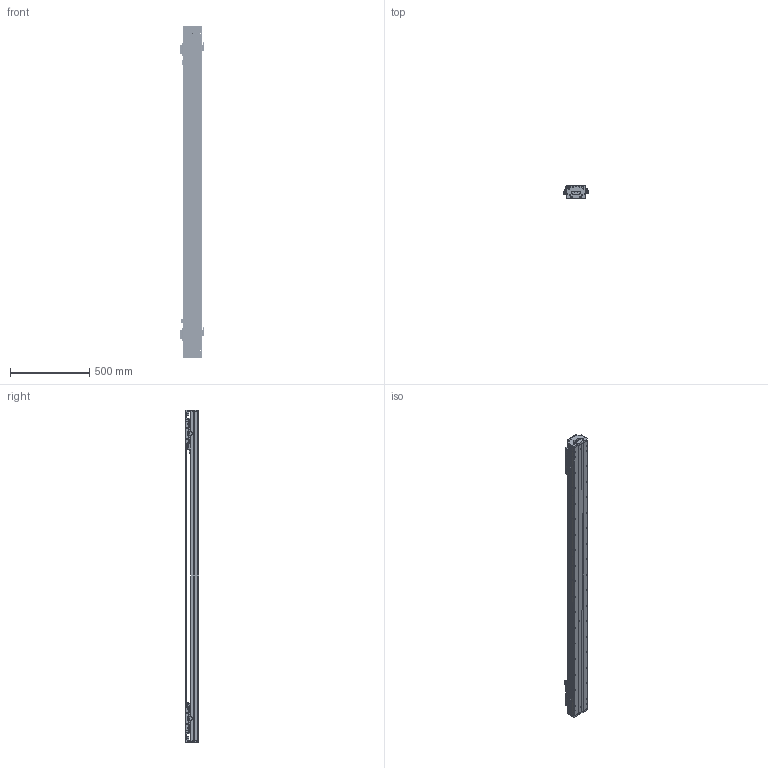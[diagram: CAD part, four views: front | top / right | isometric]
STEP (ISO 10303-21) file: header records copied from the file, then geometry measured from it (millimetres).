
FILE_DESCRIPTION (( 'STEP AP203' ), '1' );
FILE_NAME ('DKW120-2×B2-W060（T1580-L005-0.2）.STEP', '2021-09-24T02:32:12', ( '微软用户' ), ( '微软中国' ), 'SwSTEP 2.0', 'SolidWorks 2018', '' );
FILE_SCHEMA (( 'CONFIG_CONTROL_DESIGN' ));
Length unit declared in the file: millimetre
Products named in the file (24): 06652-0001-004-00 DKW120嶺輸菜輸; DKW-DG-XJ-Z-00 笢潔滅袉砎蝶; DKW120-B15-T300-DZ-00 菁釱; Ru2; DKW-HXJ-JY-00 遣喳砎蝶; DKW-GYP-ZJ-00 笢潔嫖萇覜茼え; MSB15-DG-U; RUS嫖掑郪璃; 10940-0001-004-00 120詩湍裔啣; DKW-KGZ-ZJ-00 中间光电开关支架; 06652-0001-001-00 DKW120傷啣; 10980-0001-003-00 嫖萇羲壽嘐隅釱; 砎蝶猾沭; DKW120-2×B2-W060（T1580-L005-0.2）; DKW-SG-GYP-H-00 嫖萇覜茼え; 12160-0000-003-00 DKW120詩湍嶺輸; B2-W060_00; 12160-0000-004-00  DKW120詩湍揤輸; DKW119-RU-DTJ-00 RU2黍杅芛盓殤; DKW120 单轴模组-拉钢带组件; B2-W060; BKMA01-W060-TRL280; EE_SX674A; RUS嫖掑喜
Assembly tree (41 placements, depth 3):
  DKW120-2×B2-W060（T1580-L005-0.2）
    DKW120-B15-T300-DZ-00 菁釱
    MSB15-DG-U  x2
    DKW120 单轴模组-拉钢带组件
      06652-0001-001-00 DKW120傷啣  x2
      06652-0001-004-00 DKW120嶺輸菜輸  x4
      DKW-HXJ-JY-00 遣喳砎蝶  x4
      10940-0001-004-00 120詩湍裔啣
      砎蝶猾沭  x2
      12160-0000-003-00 DKW120詩湍嶺輸  x2
      12160-0000-004-00  DKW120詩湍揤輸  x2
    BKMA01-W060-TRL280
    RUS嫖掑郪璃
      RUS嫖掑喜
      Ru2
    10980-0001-003-00 嫖萇羲壽嘐隅釱  x2
    B2-W060  x2
      DKW-SG-GYP-H-00 嫖萇覜茼え
      B2-W060_00
      DKW119-RU-DTJ-00 RU2黍杅芛盓殤
    EE_SX674A  x5
    Ru2
    DKW-DG-XJ-Z-00 笢潔滅袉砎蝶
    DKW-GYP-ZJ-00 笢潔嫖萇覜茼え
    DKW-KGZ-ZJ-00 中间光电开关支架
Bounding box: 154.1 x 84 x 2096 mm (x, y, z)
Volume: 7853559.3 mm3; surface area: 3037846.9 mm2
Topology: 60 solids, 158 shells, 6532 faces, 17758 edges, 11443 vertices
Faces by surface type: plane 3602, cylinder 1948, bspline 494, cone 488
Entity records: 143428 total; most frequent: CARTESIAN_POINT 49260, ORIENTED_EDGE 19473, DIRECTION 18128, EDGE_CURVE 9777, VERTEX_POINT 6417, AXIS2_PLACEMENT_3D 6084, LINE 5960, VECTOR 5960
